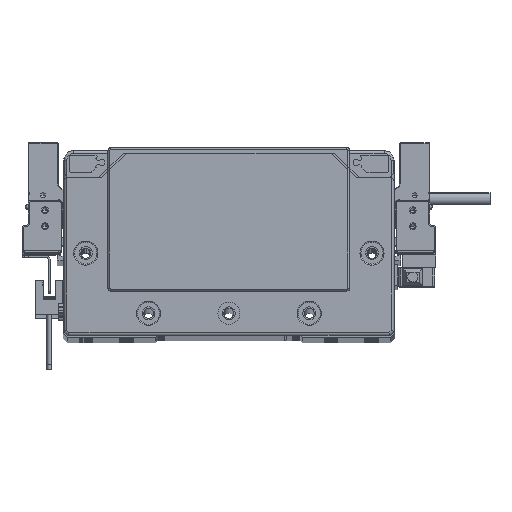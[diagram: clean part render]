
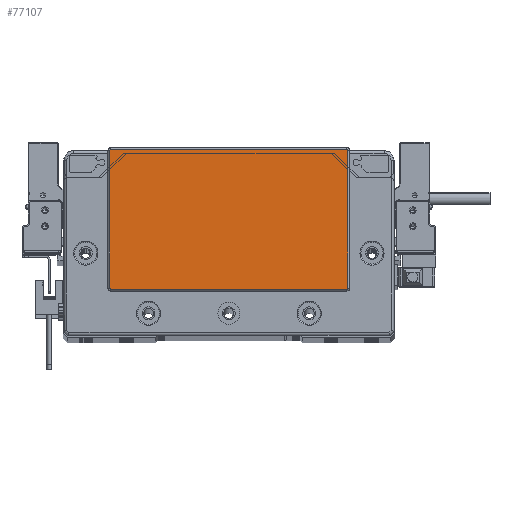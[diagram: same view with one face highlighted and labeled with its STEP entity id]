
A CAD part, top view. The second image highlights one B-rep face of the part: STEP entity #77107.
In plain terms, the highlighted planar face has unit normal (0, 0, 1) as drawn and (0, 0, -1) by its records, which use the part's own axes.
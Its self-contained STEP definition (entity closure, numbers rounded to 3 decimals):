
#2592 = LINE ( 'NONE', #51504, #54196 ) ;
#5389 = DIRECTION ( 'NONE',  ( 0., 0., -1. ) ) ;
#5565 = AXIS2_PLACEMENT_3D ( 'NONE', #28090, #61387, #21337 ) ;
#5654 = CARTESIAN_POINT ( 'NONE',  ( -58.75, 45.8, -2. ) ) ;
#6055 = EDGE_LOOP ( 'NONE', ( #17977, #74691, #52511, #51847, #74929, #81650, #73866, #18030 ) ) ;
#7013 = CARTESIAN_POINT ( 'NONE',  ( -58.75, -23.8, -2. ) ) ;
#7821 = CARTESIAN_POINT ( 'NONE',  ( 58.75, 45.8, -2. ) ) ;
#9473 = CARTESIAN_POINT ( 'NONE',  ( -58.75, -23.8, -2. ) ) ;
#11515 = DIRECTION ( 'NONE',  ( 0., 0., -1. ) ) ;
#14998 = EDGE_CURVE ( 'NONE', #23948, #76889, #21864, .T. ) ;
#16030 = VERTEX_POINT ( 'NONE', #45583 ) ;
#17977 = ORIENTED_EDGE ( 'NONE', *, *, #14998, .T. ) ;
#18030 = ORIENTED_EDGE ( 'NONE', *, *, #38997, .T. ) ;
#21337 = DIRECTION ( 'NONE',  ( -1., 0., 0. ) ) ;
#21553 = PLANE ( 'NONE',  #39939 ) ;
#21864 = LINE ( 'NONE', #75452, #99448 ) ;
#22094 = DIRECTION ( 'NONE',  ( -1., 0., 0. ) ) ;
#23110 = DIRECTION ( 'NONE',  ( -1., 0., 0. ) ) ;
#23948 = VERTEX_POINT ( 'NONE', #84433 ) ;
#27994 = CARTESIAN_POINT ( 'NONE',  ( 58.75, 45.8, -2. ) ) ;
#28090 = CARTESIAN_POINT ( 'NONE',  ( 58.75, -23.3, -2. ) ) ;
#29653 = DIRECTION ( 'NONE',  ( 0., -1., 0. ) ) ;
#29860 = CARTESIAN_POINT ( 'NONE',  ( 0., 0., -2. ) ) ;
#30234 = VERTEX_POINT ( 'NONE', #7821 ) ;
#32254 = EDGE_CURVE ( 'NONE', #16030, #56983, #57096, .T. ) ;
#36614 = DIRECTION ( 'NONE',  ( -1., 0., 0. ) ) ;
#38422 = LINE ( 'NONE', #27994, #67233 ) ;
#38779 = CIRCLE ( 'NONE', #5565, 0.5 ) ;
#38997 = EDGE_CURVE ( 'NONE', #30234, #23948, #68468, .T. ) ;
#39265 = CARTESIAN_POINT ( 'NONE',  ( 58.75, 45.3, -2. ) ) ;
#39939 = AXIS2_PLACEMENT_3D ( 'NONE', #29860, #53825, #85553 ) ;
#41911 = AXIS2_PLACEMENT_3D ( 'NONE', #39265, #55902, #23110 ) ;
#44829 = DIRECTION ( 'NONE',  ( -1., 0., 0. ) ) ;
#45583 = CARTESIAN_POINT ( 'NONE',  ( -59.25, 45.3, -2. ) ) ;
#45982 = EDGE_CURVE ( 'NONE', #95263, #16030, #2592, .T. ) ;
#49473 = DIRECTION ( 'NONE',  ( 0., 1., 0. ) ) ;
#49497 = EDGE_CURVE ( 'NONE', #76889, #79620, #38779, .T. ) ;
#49887 = CARTESIAN_POINT ( 'NONE',  ( 58.75, -23.8, -2. ) ) ;
#51504 = CARTESIAN_POINT ( 'NONE',  ( -59.25, 45.3, -2. ) ) ;
#51847 = ORIENTED_EDGE ( 'NONE', *, *, #85411, .T. ) ;
#52511 = ORIENTED_EDGE ( 'NONE', *, *, #72448, .T. ) ;
#52645 = VECTOR ( 'NONE', #22094, 1000. ) ;
#53825 = DIRECTION ( 'NONE',  ( 0., 0., -1. ) ) ;
#54196 = VECTOR ( 'NONE', #49473, 1000. ) ;
#54851 = FACE_OUTER_BOUND ( 'NONE', #6055, .T. ) ;
#55902 = DIRECTION ( 'NONE',  ( 0., 0., -1. ) ) ;
#56983 = VERTEX_POINT ( 'NONE', #5654 ) ;
#57096 = CIRCLE ( 'NONE', #92023, 0.5 ) ;
#58991 = CARTESIAN_POINT ( 'NONE',  ( -58.75, 45.3, -2. ) ) ;
#61286 = VERTEX_POINT ( 'NONE', #9473 ) ;
#61387 = DIRECTION ( 'NONE',  ( 0., 0., -1. ) ) ;
#62063 = EDGE_CURVE ( 'NONE', #56983, #30234, #38422, .T. ) ;
#67233 = VECTOR ( 'NONE', #83689, 1000. ) ;
#68468 = CIRCLE ( 'NONE', #41911, 0.5 ) ;
#70262 = CARTESIAN_POINT ( 'NONE',  ( -59.25, -23.3, -2. ) ) ;
#71702 = AXIS2_PLACEMENT_3D ( 'NONE', #83818, #11515, #44829 ) ;
#72448 = EDGE_CURVE ( 'NONE', #79620, #61286, #93400, .T. ) ;
#73564 = CIRCLE ( 'NONE', #71702, 0.5 ) ;
#73866 = ORIENTED_EDGE ( 'NONE', *, *, #62063, .T. ) ;
#74691 = ORIENTED_EDGE ( 'NONE', *, *, #49497, .T. ) ;
#74929 = ORIENTED_EDGE ( 'NONE', *, *, #45982, .T. ) ;
#75452 = CARTESIAN_POINT ( 'NONE',  ( 59.25, -23.3, -2. ) ) ;
#76889 = VERTEX_POINT ( 'NONE', #79387 ) ;
#77107 = ADVANCED_FACE ( 'NONE', ( #54851 ), #21553, .T. ) ;
#79387 = CARTESIAN_POINT ( 'NONE',  ( 59.25, -23.3, -2. ) ) ;
#79620 = VERTEX_POINT ( 'NONE', #49887 ) ;
#81650 = ORIENTED_EDGE ( 'NONE', *, *, #32254, .T. ) ;
#83689 = DIRECTION ( 'NONE',  ( 1., 0., 0. ) ) ;
#83818 = CARTESIAN_POINT ( 'NONE',  ( -58.75, -23.3, -2. ) ) ;
#84433 = CARTESIAN_POINT ( 'NONE',  ( 59.25, 45.3, -2. ) ) ;
#85411 = EDGE_CURVE ( 'NONE', #61286, #95263, #73564, .T. ) ;
#85553 = DIRECTION ( 'NONE',  ( -1., 0., 0. ) ) ;
#92023 = AXIS2_PLACEMENT_3D ( 'NONE', #58991, #5389, #36614 ) ;
#93400 = LINE ( 'NONE', #7013, #52645 ) ;
#95263 = VERTEX_POINT ( 'NONE', #70262 ) ;
#99448 = VECTOR ( 'NONE', #29653, 1000. ) ;
